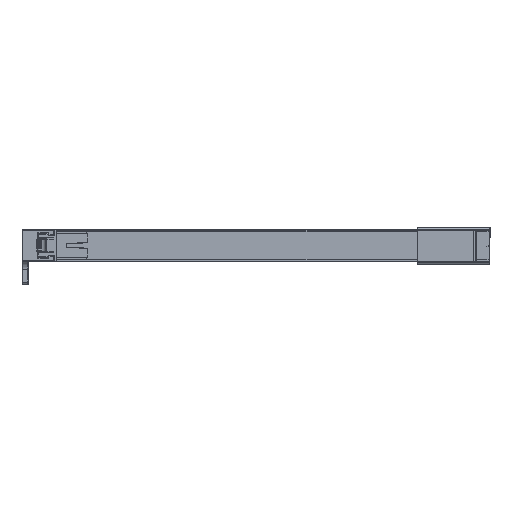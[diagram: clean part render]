
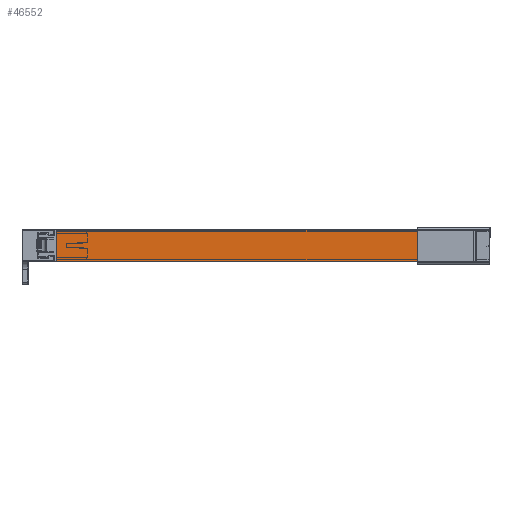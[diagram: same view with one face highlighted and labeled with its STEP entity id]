
A CAD part, front view. The second image highlights one B-rep face of the part: STEP entity #46552.
In plain terms, the highlighted planar face has unit normal (0, -1, 0).
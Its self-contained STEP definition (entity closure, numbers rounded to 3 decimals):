
#2811=FACE_OUTER_BOUND('',#5870,.T.);
#5870=EDGE_LOOP('',(#31190,#31191,#31192,#31193));
#12187=LINE('',#72356,#15869);
#12189=LINE('',#72365,#15871);
#12203=LINE('',#72410,#15885);
#12204=LINE('',#72411,#15886);
#15869=VECTOR('',#56154,1000.);
#15871=VECTOR('',#56164,1000.);
#15885=VECTOR('',#56204,1000.);
#15886=VECTOR('',#56205,1000.);
#19574=VERTEX_POINT('',#72353);
#19575=VERTEX_POINT('',#72355);
#19577=VERTEX_POINT('',#72362);
#19578=VERTEX_POINT('',#72364);
#23854=EDGE_CURVE('',#19574,#19575,#12187,.T.);
#23859=EDGE_CURVE('',#19578,#19577,#12189,.T.);
#23884=EDGE_CURVE('',#19577,#19575,#12203,.T.);
#23885=EDGE_CURVE('',#19574,#19578,#12204,.T.);
#31190=ORIENTED_EDGE('',*,*,#23859,.T.);
#31191=ORIENTED_EDGE('',*,*,#23884,.T.);
#31192=ORIENTED_EDGE('',*,*,#23854,.F.);
#31193=ORIENTED_EDGE('',*,*,#23885,.T.);
#45689=PLANE('',#49859);
#46552=ADVANCED_FACE('',(#2811),#45689,.F.);
#49859=AXIS2_PLACEMENT_3D('',#72409,#56202,#56203);
#56154=DIRECTION('',(0.,0.,-1.));
#56164=DIRECTION('',(0.,0.,-1.));
#56202=DIRECTION('center_axis',(0.,1.,0.));
#56203=DIRECTION('ref_axis',(0.,0.,1.));
#56204=DIRECTION('',(1.,0.,0.));
#56205=DIRECTION('',(-1.,0.,0.));
#72353=CARTESIAN_POINT('',(207.,-5.5,9.8));
#72355=CARTESIAN_POINT('',(207.,-5.5,-9.8));
#72356=CARTESIAN_POINT('',(207.,-5.5,10.));
#72362=CARTESIAN_POINT('',(-55.7,-5.5,-9.8));
#72364=CARTESIAN_POINT('',(-55.7,-5.5,9.8));
#72365=CARTESIAN_POINT('',(-55.7,-5.5,10.));
#72409=CARTESIAN_POINT('Origin',(207.,-5.5,10.));
#72410=CARTESIAN_POINT('',(207.,-5.5,-9.8));
#72411=CARTESIAN_POINT('',(207.,-5.5,9.8));
